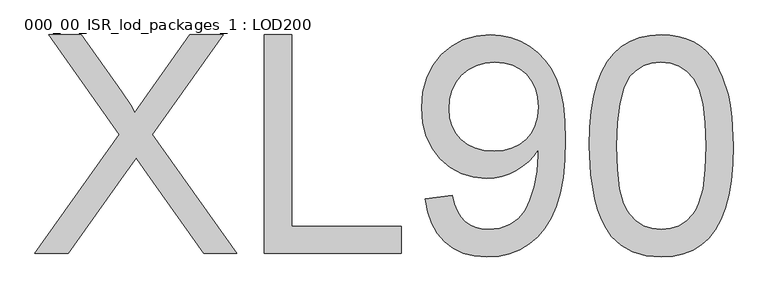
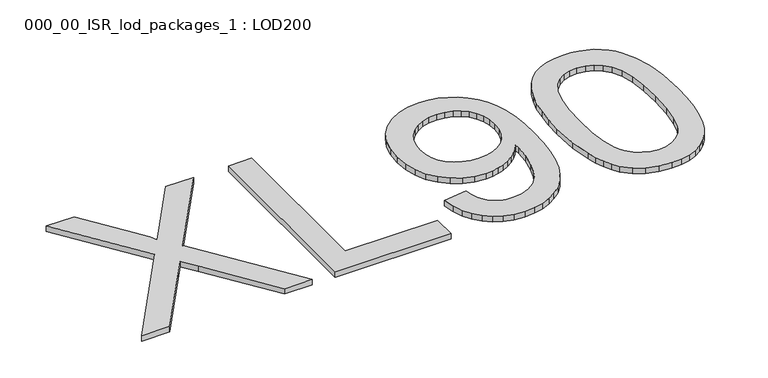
"""IFC4 building model written with IfcOpenShell, lengths in millimetres: proxy geometry, 000_00_ISR_lod_packages_1 : LOD200."""

import ifcopenshell
import ifcopenshell.guid

model = None  # the IFC model being written
_history = None  # IfcOwnerHistory: only IFC2X3 demands one
_inside = {}  # id of a spatial element -> (the spatial element, [elements in it])
_under = {}  # id of a project, library or spatial element -> (it, [spatial elements below it])
_declared = {}  # id of a project -> (the project, [libraries it declares])
_typed = {}  # id of a type object -> (the type object, [elements of that type])
_made_of = {}  # id of a material, layer set ... -> (it, [elements and type objects made of it])


def new_model(schema):
    """Start an empty IFC model of exactly this schema.

    Asked for "IFC4X3", IfcOpenShell would pick the latest addendum, in which some entities
    have other attributes; the version numbers below select the first issue.
    IFC2X3 requires an IfcOwnerHistory on every rooted entity: one is made here for all.
    """
    global model, _history
    if schema == "IFC4X3":
        model = ifcopenshell.file(schema_version=(4, 3, 0, 0))
    else:
        model = ifcopenshell.file(schema=schema)
    _inside.clear()
    _under.clear()
    _declared.clear()
    _typed.clear()
    _made_of.clear()
    _history = None
    if model.schema == "IFC2X3":
        org = make("IfcOrganization", Name="unknown")
        user = make(
            "IfcPersonAndOrganization",
            ThePerson=make("IfcPerson", FamilyName="unknown"),
            TheOrganization=org,
        )
        app = make(
            "IfcApplication",
            ApplicationDeveloper=org,
            Version="unknown",
            ApplicationFullName="unknown",
            ApplicationIdentifier="unknown",
        )
        _history = make(
            "IfcOwnerHistory",
            OwningUser=user,
            OwningApplication=app,
            ChangeAction="ADDED",
            CreationDate=0,
        )
    return model


def make(cls, **values):
    """One entity of the class cls with the attributes given. An attribute that is None is left unset."""
    return model.create_entity(
        cls, **{name: value for name, value in values.items() if value is not None}
    )


def rooted(cls, **values):
    """An entity with a GlobalId (a new one), such as an element, a storey or a relation."""
    return make(cls, GlobalId=ifcopenshell.guid.new(), OwnerHistory=_history, **values)


def si_unit(unit_type, name, prefix=None):
    """IfcSIUnit, for example si_unit("LENGTHUNIT", "METRE", prefix="MILLI")."""
    return make("IfcSIUnit", UnitType=unit_type, Prefix=prefix, Name=name)


def assignment(units):
    """IfcUnitAssignment: the units of a project."""
    return None if units is None else make("IfcUnitAssignment", Units=units)


def point(xyz):
    """IfcCartesianPoint."""
    return None if xyz is None else make("IfcCartesianPoint", Coordinates=xyz)


def direction(xyz):
    """IfcDirection."""
    return None if xyz is None else make("IfcDirection", DirectionRatios=xyz)


def frame(location, z_axis=None, x_axis=None):
    """IfcAxis2Placement3D, a coordinate frame: its origin and axes. An axis left out is left unset."""
    return make(
        "IfcAxis2Placement3D",
        Location=point(location),
        Axis=direction(z_axis),
        RefDirection=direction(x_axis),
    )


def origin():
    """The frame at (0, 0, 0) with its axes left unset."""
    return frame((0.0, 0.0, 0.0))


def origin_with_axes():
    """The frame at (0, 0, 0) with the z axis (0, 0, 1) and the x axis (1, 0, 0) written out."""
    return frame((0.0, 0.0, 0.0), z_axis=(0.0, 0.0, 1.0), x_axis=(1.0, 0.0, 0.0))


def place(relative_to, where):
    """IfcLocalPlacement: puts the frame where relative to a parent placement (None: the world)."""
    return make(
        "IfcLocalPlacement", PlacementRelTo=relative_to, RelativePlacement=where
    )


def context(
    kind, dimensions, precision=None, world=None, true_north=None, identifier=None
):
    """IfcGeometricRepresentationContext, for example the 3D "Model" context."""
    return make(
        "IfcGeometricRepresentationContext",
        ContextIdentifier=identifier,
        ContextType=kind,
        CoordinateSpaceDimension=dimensions,
        Precision=precision,
        WorldCoordinateSystem=world,
        TrueNorth=true_north,
    )


def project(units=None, contexts=None):
    """IfcProject with its units and contexts."""
    return rooted(
        "IfcProject",
        Name="project",
        RepresentationContexts=contexts,
        UnitsInContext=assignment(units),
    )


def spatial(cls, under=None, at=None, **own):
    """A site, building, storey or space (cls), placed at a placement, below another one or the project."""
    s = rooted(cls, ObjectPlacement=at, **own)
    if under is not None:
        _under.setdefault(under.id(), (under, []))[1].append(s)
    return s


def polyline(points):
    """IfcPolyline through the points."""
    return make("IfcPolyline", Points=[point(p) for p in points])


def outline(outer, holes=None, kind="AREA"):
    """IfcArbitraryClosedProfileDef: a profile drawn as a closed curve; with holes, ...WithVoids."""
    if holes is None:
        return make("IfcArbitraryClosedProfileDef", ProfileType=kind, OuterCurve=outer)
    return make(
        "IfcArbitraryProfileDefWithVoids",
        ProfileType=kind,
        OuterCurve=outer,
        InnerCurves=holes,
    )


def extrude(swept, where, along, depth):
    """IfcExtrudedAreaSolid: the profile swept, set in the frame where, extruded along a direction by depth."""
    return make(
        "IfcExtrudedAreaSolid",
        SweptArea=swept,
        Position=where,
        ExtrudedDirection=direction(along),
        Depth=depth,
    )


def shape(context_of_items, identifier, shape_type, items):
    """IfcShapeRepresentation: the items that make up one representation, for example the "Body"."""
    return make(
        "IfcShapeRepresentation",
        ContextOfItems=context_of_items,
        RepresentationIdentifier=identifier,
        RepresentationType=shape_type,
        Items=items,
    )


def source(mapping_origin, context_of_items, identifier, shape_type, items):
    """IfcRepresentationMap: a shape defined once, which mapped items show again and again."""
    return make(
        "IfcRepresentationMap",
        MappingOrigin=mapping_origin,
        MappedRepresentation=shape(context_of_items, identifier, shape_type, items),
    )


def transform(
    local_origin,
    x_axis=None,
    y_axis=None,
    z_axis=None,
    scale=None,
    scale2=None,
    scale3=None,
    uniform=True,
):
    """IfcCartesianTransformationOperator3D, or its non-uniform kind. x_axis, y_axis, z_axis: its Axis1, 2, 3."""
    if uniform:
        return make(
            "IfcCartesianTransformationOperator3D",
            Axis1=direction(x_axis),
            Axis2=direction(y_axis),
            LocalOrigin=point(local_origin),
            Scale=scale,
            Axis3=direction(z_axis),
        )
    return make(
        "IfcCartesianTransformationOperator3DnonUniform",
        Axis1=direction(x_axis),
        Axis2=direction(y_axis),
        LocalOrigin=point(local_origin),
        Scale=scale,
        Axis3=direction(z_axis),
        Scale2=scale2,
        Scale3=scale3,
    )


def mapped(mapping_source, mapping_target):
    """IfcMappedItem: shows the shape of a source again, moved by a transform."""
    return make(
        "IfcMappedItem", MappingSource=mapping_source, MappingTarget=mapping_target
    )


def made_of(thing, what):
    """Note that an element or type object is made of a material, layer set ...; save() writes the relation."""
    if what is not None:
        _made_of.setdefault(what.id(), (what, []))[1].append(thing)
    return thing


def element(
    cls,
    number,
    at=None,
    inside=None,
    cuts=None,
    type_object=None,
    material=None,
    context=None,
    identifier="Body",
    shape_type=None,
    held_by="IfcProductDefinitionShape",
    body=None,
    shapes=None,
    **own,
):
    """One element of the class cls, such as IfcWall. Its Tag is "e" and its number.

    at: its placement. inside: the storey or other place that contains it. cuts: it is an
    opening in that element (IfcRelVoidsElement). A single representation is given by context,
    identifier, shape_type and body (its items); several are given by shapes. held_by: the class
    of the entity that holds the representations. save() writes the other relations.
    """
    e = rooted(cls, Tag="e%d" % number, ObjectPlacement=at, **own)
    if body is not None:
        shapes = [shape(context, identifier, shape_type, body)]
    if shapes is not None:
        e.Representation = make(held_by, Representations=shapes)
    if inside is not None:
        _inside.setdefault(inside.id(), (inside, []))[1].append(e)
    if cuts is not None:
        rooted(
            "IfcRelVoidsElement", RelatingBuildingElement=cuts, RelatedOpeningElement=e
        )
    if type_object is not None:
        _typed.setdefault(type_object.id(), (type_object, []))[1].append(e)
    return made_of(e, material)


def aggregate(whole, parts):
    """IfcRelAggregates: a whole, such as a stair, and the parts it consists of."""
    return rooted("IfcRelAggregates", RelatingObject=whole, RelatedObjects=parts)


def save(model, path):
    """Write the relations noted so far, then the file.

    IfcRelAggregates (storeys below a building ...), IfcRelContainedInSpatialStructure (elements
    in a storey), IfcRelDefinesByType, IfcRelAssociatesMaterial and IfcRelDeclares: one each for
    every whole, place, type object, material and project.
    """
    for whole, parts in _under.values():
        aggregate(whole, parts)
    for where, things in _inside.values():
        rooted(
            "IfcRelContainedInSpatialStructure",
            RelatedElements=things,
            RelatingStructure=where,
        )
    for kind, things in _typed.values():
        rooted("IfcRelDefinesByType", RelatedObjects=things, RelatingType=kind)
    for what, things in _made_of.values():
        rooted("IfcRelAssociatesMaterial", RelatedObjects=things, RelatingMaterial=what)
    for by, libraries in _declared.values():
        rooted("IfcRelDeclares", RelatingContext=by, RelatedDefinitions=libraries)
    model.write(path)


def proxy_000_00_isr_lod_packages_1_lod200_9d03e05b(model_context):
    return source(origin(), model_context, "Body", "SweptSolid", [
        extrude(outline(polyline([(500.0, 500.0), (808.1627819, 935.6043884), (549.9617936, 1299.3886983), (669.7920331, 1299.3886983), (815.1886591, 1094.6624423), (849.878928, 1042.7978069), (864.1746365, 1014.8406705), (921.5526339, 1096.0285851), (1065.3879539, 1299.3886983), (1186.9746626, 1299.3886983), (928.7736744, 934.4334088), (1236.9364563, 500.0), (1117.1062168, 500.0), (911.7944711, 789.6222725), (869.0537179, 849.7325555), (822.0193731, 783.7673749), (621.5867088, 500.0), (500.0, 500.0)])), origin_with_axes(), (0.0, 0.0, 1.0), 25.0),
        extrude(outline(polyline([(1336.8600436, 500.0), (1336.8600436, 1299.3886983), (1436.7836309, 1299.3886983), (1436.7836309, 599.9235873), (1836.47798, 599.9235873), (1836.47798, 500.0), (1336.8600436, 500.0)])), origin_with_axes(), (0.0, 0.0, 1.0), 25.0),
        extrude(outline(polyline([(1923.9111189, 699.8471746), (2023.8347062, 712.337623), (2031.0313513, 681.7152883), (2040.9114912, 655.6183016), (2053.4751258, 634.0466629), (2068.7222552, 617.0003722), (2086.4821115, 604.0647076), (2106.5839269, 594.8249472), (2129.0277014, 589.281091), (2153.813435, 587.4331389), (2196.1882571, 592.1902433), (2234.7086048, 606.4615564), (2266.7153788, 628.6857722), (2289.5494798, 657.3015847), (2306.8458234, 694.9193024), (2322.2393253, 744.1492338), (2333.070886, 800.6489965), (2336.6814063, 860.0762081), (2336.0959165, 879.5925338), (2320.1230237, 857.3683179), (2301.4788339, 837.3396887), (2280.163347, 819.5066462), (2256.176563, 803.8691903), (2230.3357281, 791.1469855), (2203.4580884, 782.0596964), (2175.5436438, 776.6073229), (2146.5923945, 774.7898651), (2099.1250312, 779.2298291), (2055.4755492, 792.5497214), (2015.6439483, 814.7495418), (1979.6302286, 845.8292904), (1949.788547, 884.1666726), (1928.47306, 928.1393938), (1915.6837679, 977.747454), (1911.4206705, 1032.9908533), (1915.8911289, 1090.0761058), (1929.3025039, 1141.3064606), (1951.6547956, 1186.6819178), (1982.948004, 1226.2024772), (2020.9743447, 1258.2214489), (2063.5260335, 1281.0921431), (2110.6030703, 1294.8145595), (2162.205455, 1299.3886983), (2200.304982, 1296.7783898), (2236.7334236, 1288.9474641), (2271.4907798, 1275.8959213), (2304.5770506, 1257.6237615), (2334.8883439, 1234.521311), (2361.3207674, 1206.9788964), (2383.8743212, 1174.9965178), (2402.5490053, 1138.574175), (2417.1923484, 1095.6138632), (2427.6518792, 1044.0175773), (2433.9275976, 983.7853173), (2436.0195038, 914.9170832), (2433.9336965, 842.5908001), (2427.6762746, 778.0344542), (2417.2472381, 721.2480454), (2402.6465869, 672.2315738), (2383.9292109, 629.7896644), (2361.1499995, 592.7269422), (2334.3089529, 561.0434073), (2303.4060711, 534.7390596), (2269.0634368, 514.0761499), (2231.903133, 499.3169286), (2191.9251597, 490.4613958), (2149.1295168, 487.5095516), (2104.2541656, 490.9919959), (2063.6968013, 501.439329), (2027.4574242, 518.8515508), (1995.536034, 543.2286613), (1968.7376794, 573.9119845), (1947.8674086, 610.2428445), (1932.9252218, 652.2212412), (1923.9111189, 699.8471746)]), holes=[polyline([(2336.0959165, 1035.3328124), (2333.400224, 1071.1452699), (2325.3131466, 1103.0544624), (2311.8346842, 1131.0603897), (2292.9648368, 1155.1630518), (2269.63063, 1174.5452027), (2242.7590891, 1188.3895962), (2212.3502142, 1196.6962323), (2178.4040053, 1199.465111), (2143.3722008, 1196.4827725), (2111.6581716, 1187.535757), (2083.2619178, 1172.6240644), (2058.1834393, 1151.7476949), (2037.6912974, 1126.1264186), (2023.0540532, 1096.980006), (2014.2717066, 1064.3084571), (2011.3442578, 1028.1117719), (2014.1131365, 995.647584), (2022.4197726, 966.3669966), (2036.2641661, 940.27001), (2055.646317, 917.3566239), (2079.7611769, 898.7002363), (2107.8036973, 885.3742452), (2139.7738782, 877.3786506), (2175.6717197, 874.7134523), (2209.148317, 877.3786506), (2239.5145, 885.3742452), (2266.7702685, 898.7002363), (2290.9156226, 917.3566239), (2310.6820012, 940.721325), (2324.800843, 968.1722568), (2333.2721481, 999.7094192), (2336.0959165, 1035.3328124)])]), origin_with_axes(), (0.0, 0.0, 1.0), 25.0),
        extrude(outline(polyline([(2523.4526427, 893.2539617), (2525.2883971, 960.469407), (2530.7956602, 1021.2078717), (2539.9744321, 1075.4693558), (2552.8247128, 1123.2538594), (2569.2916125, 1164.9517089), (2589.3202417, 1200.9532309), (2612.9106003, 1231.2584253), (2640.0626884, 1255.8672922), (2670.8679887, 1274.9079074), (2705.4179839, 1288.5083468), (2743.7126741, 1296.6686105), (2785.7520593, 1299.3886983), (2817.3441115, 1297.7786015), (2847.3260667, 1292.9483109), (2875.6979251, 1284.8978266), (2902.4596867, 1273.6271485), (2926.9648731, 1259.3253411), (2948.567006, 1242.1814688), (2967.2660855, 1222.1955316), (2983.0621116, 1199.3675294), (3009.1164063, 1145.5512615), (3029.9012931, 1081.098596), (3037.8419981, 1043.1942323), (3043.5139303, 999.2520054), (3048.051476, 893.2539617), (3046.2340181, 826.465436), (3040.7816447, 766.0319139), (3031.6943555, 711.9533953), (3018.9721508, 664.2298803), (3002.6333269, 622.5137342), (2982.6961805, 586.4573226), (2959.1607115, 556.0606454), (2932.02692, 531.3237027), (2901.1850266, 512.1550116), (2866.5252521, 498.4630894), (2828.0475963, 490.247936), (2785.7520593, 487.5095516), (2730.716021, 492.266656), (2681.9252069, 506.5379691), (2639.379617, 530.323491), (2603.0792513, 563.6232216), (2584.4167649, 591.8700535), (2568.24261, 623.8188885), (2554.5567867, 659.4697265), (2543.3592948, 698.8225675), (2528.4293057, 788.6342586), (2523.4526427, 893.2539617)]), holes=[polyline([(2623.37623, 893.449125), (2626.3036788, 806.5831793), (2635.0860254, 736.2695173), (2649.7232696, 682.508139), (2659.2374783, 661.8345563), (2670.2154115, 645.2990444), (2695.0011451, 619.9827107), (2722.5191642, 601.8996153), (2752.769469, 591.049758), (2785.7520593, 587.4331389), (2818.7346497, 591.0619557), (2848.9849544, 601.9484061), (2876.5029736, 620.0924901), (2901.2887071, 645.4942077), (2912.2666403, 662.069362), (2921.7808491, 682.7642908), (2936.4180933, 736.5134714), (2945.2004398, 806.7417494), (2948.1278887, 893.449125), (2945.2980215, 978.0158035), (2936.8084198, 1047.0913986), (2922.6590837, 1100.6759102), (2902.8500132, 1138.7693383), (2878.4790015, 1165.3237389), (2850.6438421, 1184.2911679), (2819.3445348, 1195.6716253), (2784.5810798, 1199.465111), (2751.7692573, 1196.1229403), (2722.0312561, 1186.096428), (2695.3670762, 1169.3855742), (2671.7767176, 1145.9903788), (2650.6015042, 1104.5181868), (2635.4763519, 1048.6039138), (2626.4012604, 978.2475599), (2623.37623, 893.449125)])]), origin_with_axes(), (0.0, 0.0, 1.0), 25.0),
    ])


if __name__ == "__main__":
    model = new_model("IFC4")
    model_context = context("Model", 3, world=origin())
    ifc_project = project(units=[si_unit("LENGTHUNIT", "METRE", prefix="MILLI")], contexts=[model_context])
    site = spatial("IfcSite", under=ifc_project)
    building = spatial("IfcBuilding", under=site)
    placement = place(None, origin())
    proxy_000_00_isr_lod_packages_1_lod200_shape = proxy_000_00_isr_lod_packages_1_lod200_9d03e05b(model_context)
    element("IfcBuildingElementProxy", 1, Name="000_00_ISR_lod_packages_1 : LOD200", ObjectType="000_00_ISR_lod_packages_1 : LOD200", at=placement, inside=building, context=model_context, shape_type="MappedRepresentation", body=[
        mapped(proxy_000_00_isr_lod_packages_1_lod200_shape, transform((0.0, 0.0, 0.0), x_axis=(1.0, 0.0, 0.0), y_axis=(0.0, 1.0, 0.0), z_axis=(0.0, 0.0, 1.0))),
    ])
    save(model, "model.ifc")
